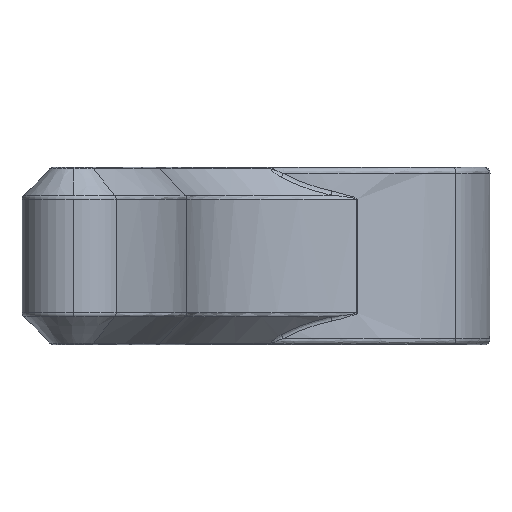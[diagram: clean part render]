
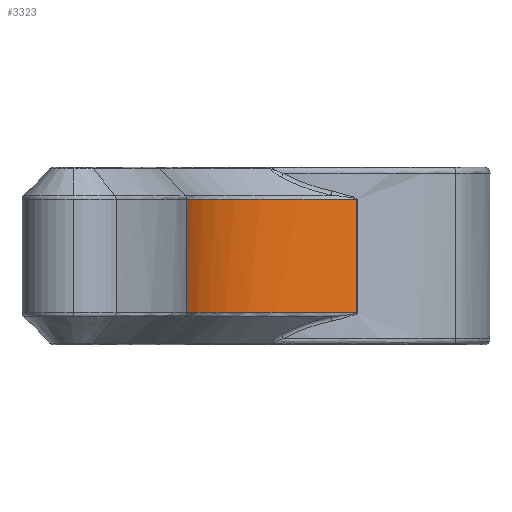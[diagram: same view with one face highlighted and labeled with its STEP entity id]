
A CAD part, left-side view. The second image highlights one B-rep face of the part: STEP entity #3323.
In plain terms, the highlighted free-form (B-spline) face has degree [3, 1] with [4, 2] control points.
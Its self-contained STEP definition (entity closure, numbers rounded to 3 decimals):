
#125 = VERTEX_POINT ( 'NONE', #2538 ) ;
#131 = CARTESIAN_POINT ( 'NONE',  ( -14.616, 0.891, -1.94 ) ) ;
#150 = DIRECTION ( 'NONE',  ( 0., 0., 1. ) ) ;
#173 = CARTESIAN_POINT ( 'NONE',  ( -6.851, -3.254, -1.917 ) ) ;
#282 = VECTOR ( 'NONE', #150, 1000. ) ;
#312 = CARTESIAN_POINT ( 'NONE',  ( -8.015, -1.841, 1.917 ) ) ;
#462 = VERTEX_POINT ( 'NONE', #1041 ) ;
#489 = CARTESIAN_POINT ( 'NONE',  ( -11.529, 0.59, -1.94 ) ) ;
#518 = CARTESIAN_POINT ( 'NONE',  ( -11.529, 0.59, 1.94 ) ) ;
#647 = LINE ( 'NONE', #3141, #282 ) ;
#823 = CARTESIAN_POINT ( 'NONE',  ( -14.159, 0.847, -1.917 ) ) ;
#840 = CARTESIAN_POINT ( 'NONE',  ( -5.967, -4.853, -1.917 ) ) ;
#871 = CARTESIAN_POINT ( 'NONE',  ( -14.616, 0.891, 1.94 ) ) ;
#978 = CARTESIAN_POINT ( 'NONE',  ( -11.036, 0.168, 1.917 ) ) ;
#981 = ORIENTED_EDGE ( 'NONE', *, *, #2257, .T. ) ;
#993 = CARTESIAN_POINT ( 'NONE',  ( -8.68, -1.216, 1.917 ) ) ;
#1030 = CARTESIAN_POINT ( 'NONE',  ( -9.035, -0.931, 1.917 ) ) ;
#1041 = CARTESIAN_POINT ( 'NONE',  ( -5.967, -4.853, -1.917 ) ) ;
#1056 = CARTESIAN_POINT ( 'NONE',  ( -14.616, 0.891, 1.917 ) ) ;
#1151 = ORIENTED_EDGE ( 'NONE', *, *, #1703, .T. ) ;
#1225 = CARTESIAN_POINT ( 'NONE',  ( -5.967, -4.853, -1.94 ) ) ;
#1347 = CARTESIAN_POINT ( 'NONE',  ( -12.797, 0.65, 1.917 ) ) ;
#1378 = CARTESIAN_POINT ( 'NONE',  ( -9.794, -0.425, 1.917 ) ) ;
#1502 = CARTESIAN_POINT ( 'NONE',  ( -11.466, 0.317, -1.917 ) ) ;
#1541 = EDGE_CURVE ( 'NONE', #1723, #125, #3632, .T. ) ;
#1554 = CARTESIAN_POINT ( 'NONE',  ( -5.967, -4.853, 1.917 ) ) ;
#1672 = CARTESIAN_POINT ( 'NONE',  ( -5.967, -4.853, 1.917 ) ) ;
#1703 = EDGE_CURVE ( 'NONE', #462, #3811, #647, .T. ) ;
#1720 = CARTESIAN_POINT ( 'NONE',  ( -11.466, 0.317, 1.917 ) ) ;
#1723 = VERTEX_POINT ( 'NONE', #3526 ) ;
#1804 = EDGE_LOOP ( 'NONE', ( #3421, #1151, #981, #2823 ) ) ;
#1838 = CARTESIAN_POINT ( 'NONE',  ( -11.036, 0.168, -1.917 ) ) ;
#1849 = CARTESIAN_POINT ( 'NONE',  ( -5.967, -4.853, 1.94 ) ) ;
#1863 = CARTESIAN_POINT ( 'NONE',  ( -14.616, 0.891, -1.917 ) ) ;
#1878 = CARTESIAN_POINT ( 'NONE',  ( -8.015, -1.841, -1.917 ) ) ;
#2031 = CARTESIAN_POINT ( 'NONE',  ( -6.379, -4.033, 1.917 ) ) ;
#2045 = CARTESIAN_POINT ( 'NONE',  ( -13.703, 0.794, 1.917 ) ) ;
#2182 = CARTESIAN_POINT ( 'NONE',  ( -8.359, -0.086, -1.94 ) ) ;
#2194 = CARTESIAN_POINT ( 'NONE',  ( -9.035, -0.931, -1.917 ) ) ;
#2210 = CARTESIAN_POINT ( 'NONE',  ( -9.794, -0.425, -1.917 ) ) ;
#2257 = EDGE_CURVE ( 'NONE', #3811, #125, #2324, .T. ) ;
#2324 = B_SPLINE_CURVE_WITH_KNOTS ( 'NONE', 3,
 ( #1672, #2031, #3024, #2991, #312, #993, #1030, #1378, #3694, #978, #1720, #3658, #1347, #2045, #3055, #1056 ),
 .UNSPECIFIED., .F., .F.,
 ( 4, 2, 2, 2, 2, 2, 2, 4 ),
 ( 0., 0.003, 0.004, 0.005, 0.007, 0.008, 0.01, 0.011 ),
 .UNSPECIFIED. ) ;
#2520 = CARTESIAN_POINT ( 'NONE',  ( -12.797, 0.65, -1.917 ) ) ;
#2538 = CARTESIAN_POINT ( 'NONE',  ( -14.616, 0.891, 1.917 ) ) ;
#2804 = CARTESIAN_POINT ( 'NONE',  ( -6.379, -4.033, -1.917 ) ) ;
#2823 = ORIENTED_EDGE ( 'NONE', *, *, #1541, .F. ) ;
#2829 = CARTESIAN_POINT ( 'NONE',  ( -8.359, -0.086, 1.94 ) ) ;
#2858 = CARTESIAN_POINT ( 'NONE',  ( -13.703, 0.794, -1.917 ) ) ;
#2974 = B_SPLINE_SURFACE_WITH_KNOTS ( 'NONE', 3, 1, ( 
 ( #131, #871 ),
 ( #489, #518 ),
 ( #2182, #2829 ),
 ( #1225, #1849 ) ),
 .UNSPECIFIED., .F., .F., .F.,
 ( 4, 4 ),
 ( 2, 2 ),
 ( 0., 0.945 ),
 ( 0., 1. ),
 .UNSPECIFIED. ) ;
#2991 = CARTESIAN_POINT ( 'NONE',  ( -7.703, -2.183, 1.917 ) ) ;
#3024 = CARTESIAN_POINT ( 'NONE',  ( -6.851, -3.254, 1.917 ) ) ;
#3055 = CARTESIAN_POINT ( 'NONE',  ( -14.159, 0.847, 1.917 ) ) ;
#3141 = CARTESIAN_POINT ( 'NONE',  ( -5.967, -4.853, -1.917 ) ) ;
#3146 = CARTESIAN_POINT ( 'NONE',  ( -14.616, 0.891, -3. ) ) ;
#3320 = VECTOR ( 'NONE', #3458, 1000. ) ;
#3323 = ADVANCED_FACE ( 'NONE', ( #4244 ), #2974, .T. ) ;
#3332 = EDGE_CURVE ( 'NONE', #1723, #462, #3979, .T. ) ;
#3421 = ORIENTED_EDGE ( 'NONE', *, *, #3332, .T. ) ;
#3458 = DIRECTION ( 'NONE',  ( 0., 0., 1. ) ) ;
#3504 = CARTESIAN_POINT ( 'NONE',  ( -10.201, -0.202, -1.917 ) ) ;
#3526 = CARTESIAN_POINT ( 'NONE',  ( -14.616, 0.891, -1.917 ) ) ;
#3632 = LINE ( 'NONE', #3146, #3320 ) ;
#3658 = CARTESIAN_POINT ( 'NONE',  ( -12.346, 0.558, 1.917 ) ) ;
#3694 = CARTESIAN_POINT ( 'NONE',  ( -10.201, -0.202, 1.917 ) ) ;
#3811 = VERTEX_POINT ( 'NONE', #1554 ) ;
#3813 = CARTESIAN_POINT ( 'NONE',  ( -12.346, 0.558, -1.917 ) ) ;
#3979 = B_SPLINE_CURVE_WITH_KNOTS ( 'NONE', 3,
 ( #1863, #823, #2858, #2520, #3813, #1502, #1838, #3504, #2210, #2194, #4152, #1878, #4185, #173, #2804, #840 ),
 .UNSPECIFIED., .F., .F.,
 ( 4, 2, 2, 2, 2, 2, 2, 4 ),
 ( 0., 0.001, 0.003, 0.004, 0.006, 0.007, 0.008, 0.011 ),
 .UNSPECIFIED. ) ;
#4152 = CARTESIAN_POINT ( 'NONE',  ( -8.68, -1.216, -1.917 ) ) ;
#4185 = CARTESIAN_POINT ( 'NONE',  ( -7.703, -2.183, -1.917 ) ) ;
#4244 = FACE_OUTER_BOUND ( 'NONE', #1804, .T. ) ;
